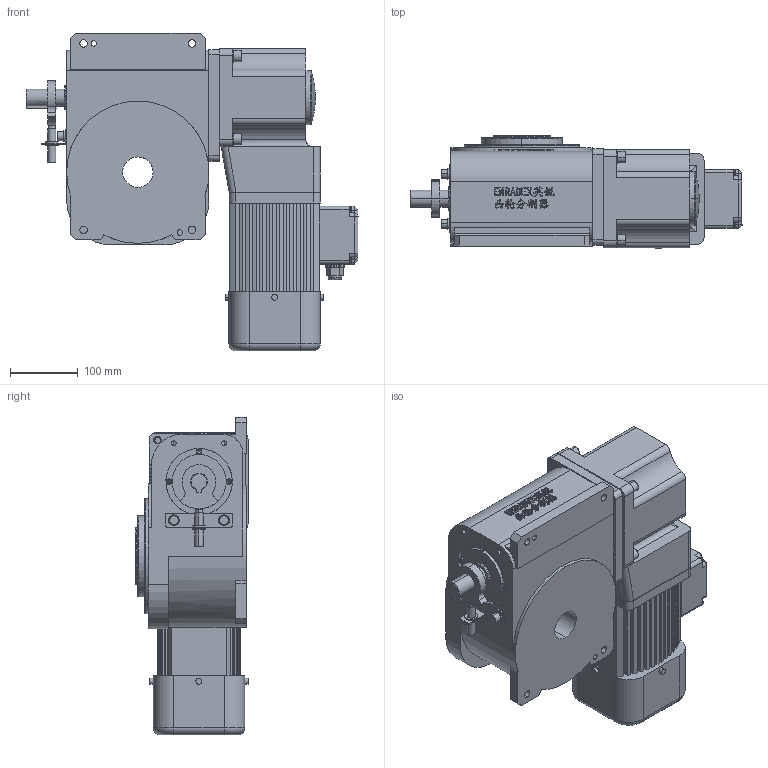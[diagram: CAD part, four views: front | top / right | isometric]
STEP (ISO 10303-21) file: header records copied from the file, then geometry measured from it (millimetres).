
FILE_DESCRIPTION (( 'STEP AP214' ), '1' );
FILE_NAME ('ER-RU110DA英锐凸轮分割器固定盘壳体法兰面销孔3D水平直联式右侧JY(电话15062628977)AA.STEP', '2022-08-20T04:19:06', ( '微软用户' ), ( '微软中国' ), 'SwSTEP 2.0', 'SolidWorks 2017', '' );
FILE_SCHEMA (( 'AUTOMOTIVE_DESIGN' ));
Length unit declared in the file: millimetre
Products named in the file (1): ER-RU110DA英锐凸轮分割器固定盘壳体法兰面销孔3D水平直联式右侧JY(电话15062628977)AA
Bounding box: 489.93 x 165.5 x 468.5 mm (x, y, z)
Volume: 15718000.7 mm3; surface area: 800879.6 mm2
Topology: 11 solids, 17 shells, 1617 faces, 3964 edges, 2548 vertices
Faces by surface type: plane 790, cylinder 391, bspline 310, cone 68, torus 56, sphere 2
Entity records: 88732 total; most frequent: CARTESIAN_POINT 40069, ORIENTED_EDGE 7840, DIRECTION 6847, EDGE_CURVE 3920, VERTEX_POINT 2548, LINE 2321, VECTOR 2321, AXIS2_PLACEMENT_3D 2263
